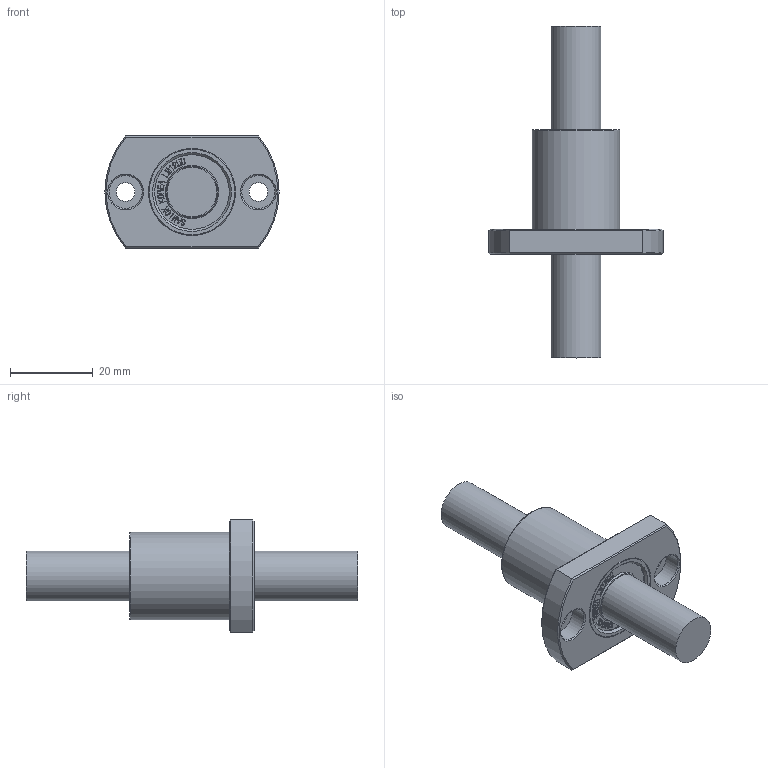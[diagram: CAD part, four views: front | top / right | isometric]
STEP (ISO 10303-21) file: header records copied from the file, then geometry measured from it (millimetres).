
FILE_DESCRIPTION(/* description */ (''),/* implementation_level */ '2;1');
FILE_NAME(/* name */ 'W:\(01) 2024년 홈페이지 CAD파일 최신화\LMH\IPT\LMH12UU.stp',/* time_stamp */ '2025-01-23T09:34:52+09:00',/* author */ ('서우현'),/* organization */ (''),/* preprocessor_version */ 'ST-DEVELOPER v17.2',/* originating_system */ 'Autodesk Inventor 2019',/* authorisation */ '');
FILE_SCHEMA (('AUTOMOTIVE_DESIGN { 1 0 10303 214 3 1 1 }'));
Length unit declared in the file: millimetre
Products named in the file (1): LM5
Bounding box: 42 x 80 x 27 mm (x, y, z)
Volume: 19547 mm3; surface area: 6595 mm2
Topology: 1 solids, 1 shells, 842 faces, 2372 edges, 1584 vertices
Faces by surface type: bspline 580, plane 236, cone 12, cylinder 12, torus 2
Full cylindrical faces by diameter (mm): 4.5 x2, 8 x2, 12 x2, 18 x2, 21 x2
Entity records: 28686 total; most frequent: CARTESIAN_POINT 10035, ORIENTED_EDGE 4744, EDGE_CURVE 2372, DIRECTION 1796, VERTEX_POINT 1584, B_SPLINE_CURVE_WITH_KNOTS 1160, LINE 1138, VECTOR 1138
